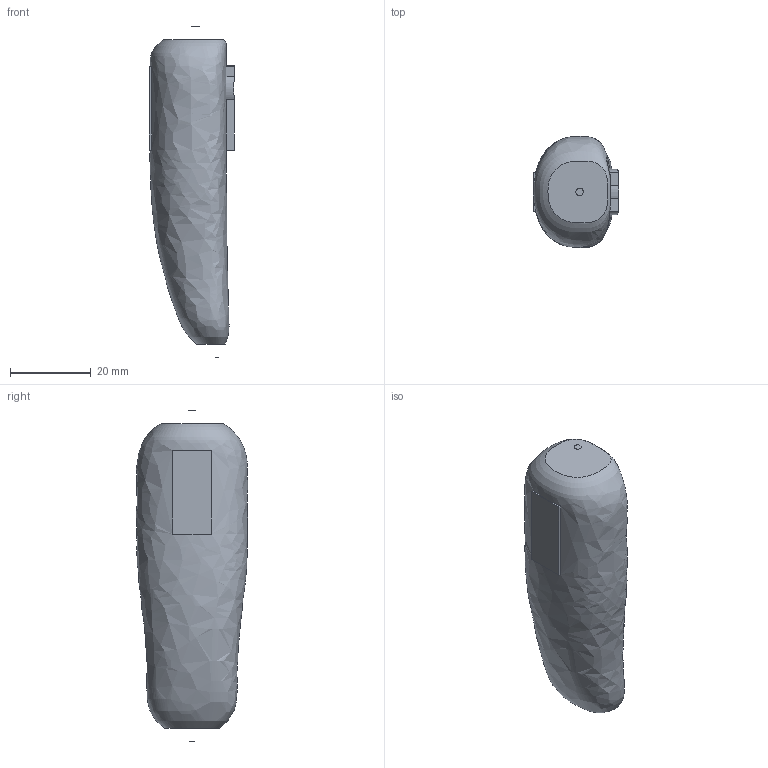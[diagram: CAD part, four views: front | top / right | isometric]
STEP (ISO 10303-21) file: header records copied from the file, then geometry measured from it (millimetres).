
FILE_DESCRIPTION(('Open CASCADE Model'),'2;1');
FILE_NAME('Open CASCADE Shape Model','2026-11-11T21:42:18',('Author'),( 'Open CASCADE'),'Open CASCADE STEP processor 8.0','build123d', 'Unknown');
FILE_SCHEMA(('AUTOMOTIVE_DESIGN { 1 0 10303 214 1 1 1 1 }'));
Products named in the file (1): SOLID
Bounding box: 21.1 x 27.6 x 82.39 mm (x, y, z)
Topology: 1 solids, 1 shells, 21 faces, 48 edges, 32 vertices
Faces by surface type: plane 16, cylinder 3, bspline 2
Entity records: 42699 total; most frequent: CARTESIAN_POINT 41883, ORIENTED_EDGE 96, PCURVE 96, DEFINITIONAL_REPRESENTATION 96, B_SPLINE_CURVE_WITH_KNOTS 94, DIRECTION 88, EDGE_CURVE 48, LINE 48
